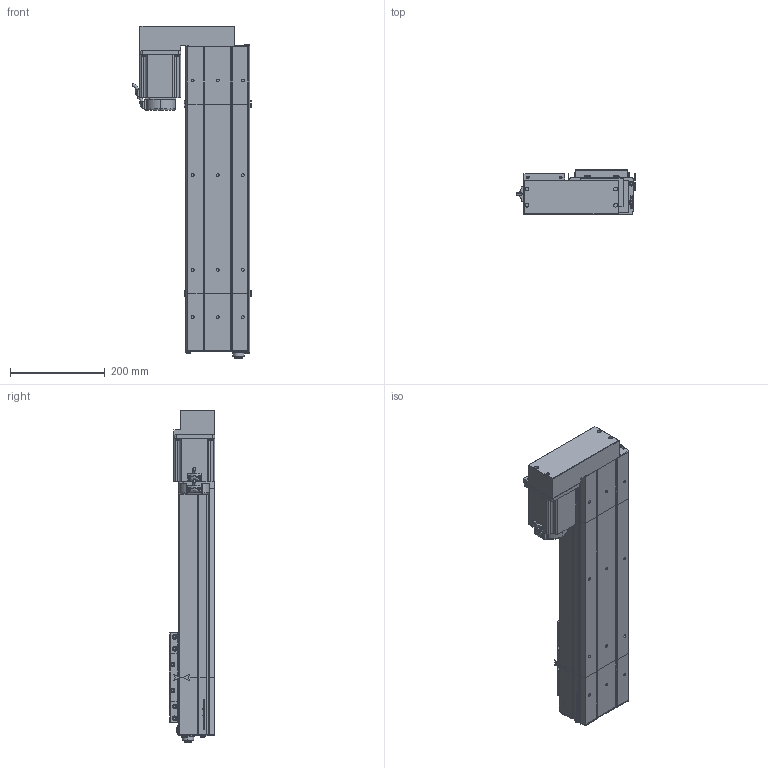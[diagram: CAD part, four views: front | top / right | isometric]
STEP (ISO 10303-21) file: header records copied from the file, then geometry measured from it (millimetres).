
FILE_DESCRIPTION (( 'STEP AP214' ), '1' );
FILE_NAME ('D14 CSH BR S400.STEP', '2010-06-29T15:05:13', ( 'Conseil Régional Haute-Normandie' ), ( 'Conseil Régional Haute-Normandie' ), 'SwSTEP 2.0', 'SolidWorks 2010', '' );
FILE_SCHEMA (( 'AUTOMOTIVE_DESIGN' ));
Length unit declared in the file: millimetre
Products named in the file (26): couvercle head d14; GMB 90 100 310; Head D14  CSH BR; Conecteur_Default; plaque de bout head d14 BR; D14 CSH BR S400; corps head d14; avant GMB 90 100 310; Conecteur2_Default; codeur GMB 90 100 310; corps GMB 90 100 310; plaque de maintient D14; plaque de bout tail d14; couvercle CSH course S400; corps  CSH 400; corps tail d14; Tail D14; Course CSH S400; Vis CHC M8; chariot supérieur D14; chariot D14; vis CHC M5.5; charriot inférieur D14; couvercle tail; vis CHC M7; vis CHC M5
Assembly tree (48 placements, depth 4):
  D14 CSH BR S400
    Head D14  CSH BR
      vis CHC M5.5  x4
      vis CHC M7  x2
      GMB 90 100 310
        codeur GMB 90 100 310
        Conecteur2_Default
        Conecteur_Default
        corps GMB 90 100 310
        avant GMB 90 100 310
      plaque de maintient D14
      plaque de bout head d14 BR
      couvercle head d14
      corps head d14
      Vis CHC M8  x2
    Course CSH S400
      couvercle CSH course S400
      corps  CSH 400
    chariot D14
      vis CHC M5  x4
      chariot supérieur D14
      charriot inférieur D14
      vis CHC M7  x8
    Tail D14
      Vis CHC M8  x2
      vis CHC M7  x4
      plaque de maintient D14
      plaque de bout tail d14
      couvercle tail
      corps tail d14
Bounding box: 250.75 x 95.75 x 701.3 mm (x, y, z)
Volume: 3401034.5 mm3; surface area: 868003.2 mm2
Topology: 49 solids, 49 shells, 2432 faces, 6243 edges, 4114 vertices
Faces by surface type: plane 1375, bspline 538, cylinder 406, torus 61, cone 52
Entity records: 107048 total; most frequent: CARTESIAN_POINT 57903, ORIENTED_EDGE 10738, DIRECTION 8000, EDGE_CURVE 5369, LINE 3626, VECTOR 3626, VERTEX_POINT 3562, EDGE_LOOP 2291
